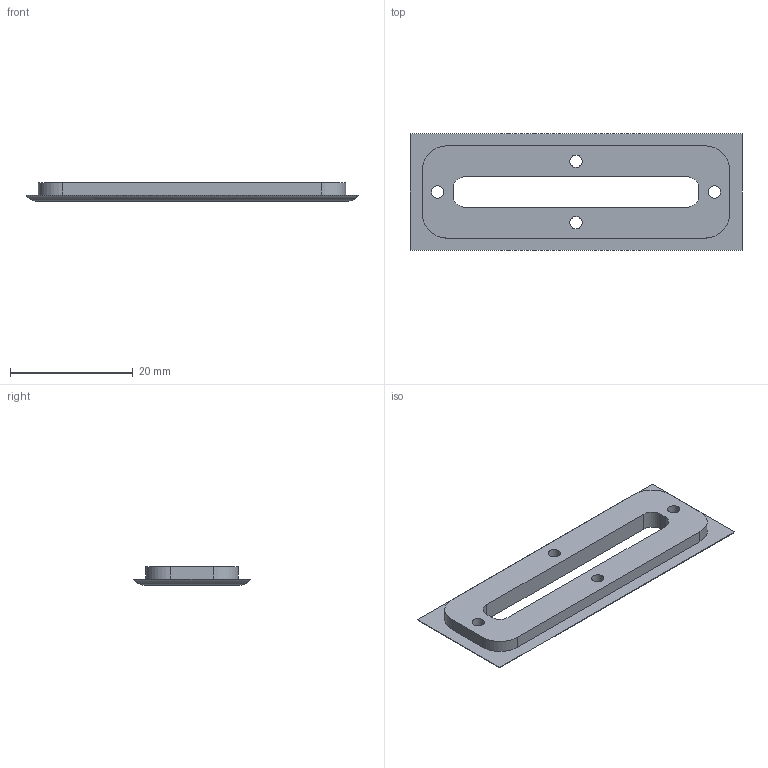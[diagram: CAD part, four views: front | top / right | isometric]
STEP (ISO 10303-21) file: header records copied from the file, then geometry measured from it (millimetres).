
FILE_DESCRIPTION(/* description */ (''),/* implementation_level */ '2;1');
FILE_NAME(/* name */ 'G:\YandexDisk\Работа\Inventor\Универ\ОАП\Лабораторные работы\ЛР6 Создание сборок\Редуктор\stp\Крышка 1.stp',/* time_stamp */ '2023-11-17T06:33:23+03:00',/* author */ ('34740'),/* organization */ (''),/* preprocessor_version */ 'ST-DEVELOPER v18.1',/* originating_system */ 'Autodesk Inventor 2022',/* authorisation */ '');
FILE_SCHEMA (('AUTOMOTIVE_DESIGN { 1 0 10303 214 3 1 1 }'));
Length unit declared in the file: millimetre
Products named in the file (1): Крышка 1
Bounding box: 54 x 19 x 3 mm (x, y, z)
Volume: 1761.5 mm3; surface area: 2292.1 mm2
Topology: 1 solids, 1 shells, 35 faces, 84 edges, 56 vertices
Faces by surface type: cylinder 20, plane 15
Full cylindrical faces by diameter (mm): 2 x4, 4 x4
Entity records: 1095 total; most frequent: DIRECTION 192, CARTESIAN_POINT 176, ORIENTED_EDGE 168, EDGE_CURVE 84, AXIS2_PLACEMENT_3D 72, VERTEX_POINT 56, EDGE_LOOP 50, LINE 48
